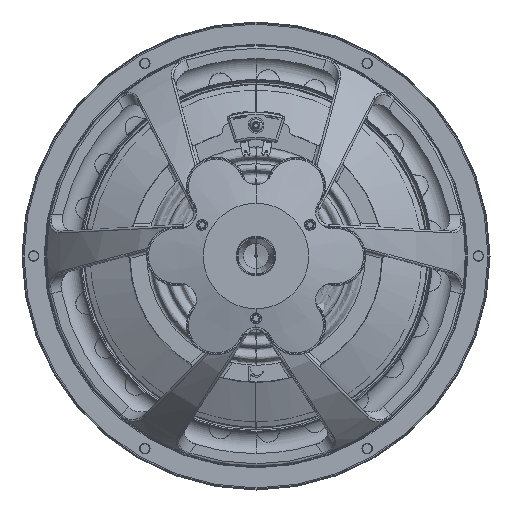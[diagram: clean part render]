
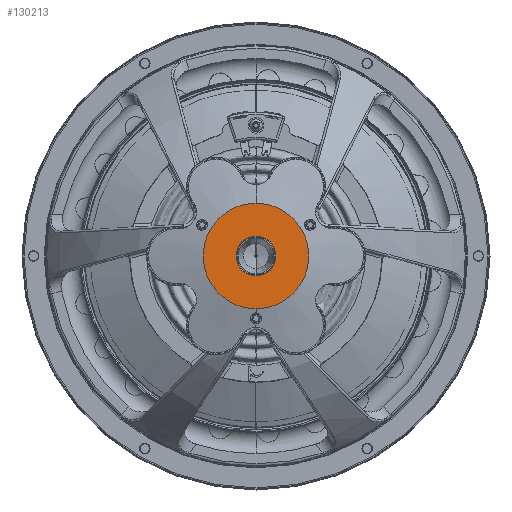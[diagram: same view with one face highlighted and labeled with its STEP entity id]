
A CAD part, front view. The second image highlights one B-rep face of the part: STEP entity #130213.
In plain terms, the highlighted planar face has unit normal (0, -1, 0).
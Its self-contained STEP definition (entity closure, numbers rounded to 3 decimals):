
#3838 = DIRECTION ( 'NONE',  ( 0., 0., 1. ) ) ;
#10124 = DIRECTION ( 'NONE',  ( 0., 1., 0. ) ) ;
#13919 = VERTEX_POINT ( 'NONE', #136732 ) ;
#21395 = CARTESIAN_POINT ( 'NONE',  ( 0., -40., -9.439 ) ) ;
#22238 = ORIENTED_EDGE ( 'NONE', *, *, #169622, .F. ) ;
#35142 = DIRECTION ( 'NONE',  ( 0., 0., 1. ) ) ;
#39001 = CARTESIAN_POINT ( 'NONE',  ( 0., -40., -25. ) ) ;
#40175 = EDGE_LOOP ( 'NONE', ( #172789, #22238 ) ) ;
#40240 = DIRECTION ( 'NONE',  ( 0., 0., 1. ) ) ;
#50464 = VERTEX_POINT ( 'NONE', #149452 ) ;
#51269 = DIRECTION ( 'NONE',  ( 0., -1., 0. ) ) ;
#66888 = CARTESIAN_POINT ( 'NONE',  ( -27.623, -40., 26.918 ) ) ;
#73479 = CARTESIAN_POINT ( 'NONE',  ( 0., -40., 0. ) ) ;
#83500 = CARTESIAN_POINT ( 'NONE',  ( 0., -40., 0. ) ) ;
#85441 = DIRECTION ( 'NONE',  ( 0., 0., -1. ) ) ;
#87896 = VERTEX_POINT ( 'NONE', #39001 ) ;
#91253 = CIRCLE ( 'NONE', #116199, 25. ) ;
#93782 = CARTESIAN_POINT ( 'NONE',  ( 0., -40., 0. ) ) ;
#97188 = PLANE ( 'NONE',  #153231 ) ;
#107533 = EDGE_CURVE ( 'NONE', #50464, #129617, #132297, .T. ) ;
#109435 = CARTESIAN_POINT ( 'NONE',  ( 0., -40., 0. ) ) ;
#113133 = CIRCLE ( 'NONE', #122442, 25. ) ;
#116199 = AXIS2_PLACEMENT_3D ( 'NONE', #83500, #10124, #128378 ) ;
#122442 = AXIS2_PLACEMENT_3D ( 'NONE', #93782, #155250, #3838 ) ;
#128378 = DIRECTION ( 'NONE',  ( 0., 0., 1. ) ) ;
#129617 = VERTEX_POINT ( 'NONE', #21395 ) ;
#130213 = ADVANCED_FACE ( 'NONE', ( #189022, #188078 ), #97188, .T. ) ;
#132297 = CIRCLE ( 'NONE', #163469, 9.439 ) ;
#134007 = AXIS2_PLACEMENT_3D ( 'NONE', #73479, #174182, #40240 ) ;
#136732 = CARTESIAN_POINT ( 'NONE',  ( 0., -40., 25. ) ) ;
#138155 = ORIENTED_EDGE ( 'NONE', *, *, #176804, .T. ) ;
#143669 = ORIENTED_EDGE ( 'NONE', *, *, #107533, .T. ) ;
#149452 = CARTESIAN_POINT ( 'NONE',  ( 0., -40., 9.439 ) ) ;
#153231 = AXIS2_PLACEMENT_3D ( 'NONE', #66888, #51269, #85441 ) ;
#155250 = DIRECTION ( 'NONE',  ( 0., 1., 0. ) ) ;
#161360 = EDGE_LOOP ( 'NONE', ( #138155, #143669 ) ) ;
#163469 = AXIS2_PLACEMENT_3D ( 'NONE', #109435, #169077, #35142 ) ;
#165187 = CIRCLE ( 'NONE', #134007, 9.439 ) ;
#169077 = DIRECTION ( 'NONE',  ( 0., 1., 0. ) ) ;
#169622 = EDGE_CURVE ( 'NONE', #87896, #13919, #91253, .T. ) ;
#172789 = ORIENTED_EDGE ( 'NONE', *, *, #181664, .F. ) ;
#174182 = DIRECTION ( 'NONE',  ( 0., 1., 0. ) ) ;
#176804 = EDGE_CURVE ( 'NONE', #129617, #50464, #165187, .T. ) ;
#181664 = EDGE_CURVE ( 'NONE', #13919, #87896, #113133, .T. ) ;
#188078 = FACE_OUTER_BOUND ( 'NONE', #40175, .T. ) ;
#189022 = FACE_BOUND ( 'NONE', #161360, .T. ) ;
